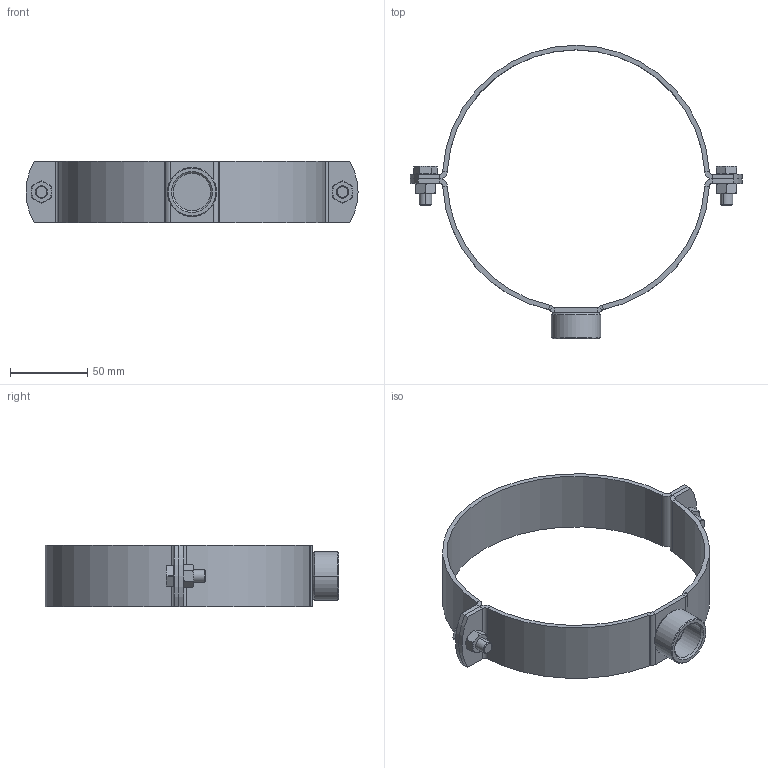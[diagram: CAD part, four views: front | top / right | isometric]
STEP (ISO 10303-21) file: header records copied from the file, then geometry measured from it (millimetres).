
FILE_DESCRIPTION (( 'STEP AP203' ), '1' );
FILE_NAME ('51.840.STEP', '2019-11-21T16:16:55', ( '' ), ( '' ), 'SwSTEP 2.0', 'SolidWorks 2019', '' );
FILE_SCHEMA (( 'CONFIG_CONTROL_DESIGN' ));
Length unit declared in the file: millimetre
Products named in the file (7): 1000003263_E-10254.002-Inox V4A (1.4404); 1000003484; 1000003486; 51.840; 1000003381_11 - Gr. 168-171 - H-17111.611; 1000003377_11 - Gr. 168-171 - H-17110.011; 1000003366_11 - Gr. 168-171 - H-17109.011
Assembly tree (8 placements, depth 3):
  51.840
    1000003381_11 - Gr. 168-171 - H-17111.611
      1000003377_11 - Gr. 168-171 - H-17110.011
      1000003263_E-10254.002-Inox V4A (1.4404)
    1000003366_11 - Gr. 168-171 - H-17109.011
    1000003484  x2
    1000003486  x2
Bounding box: 215 x 190 x 40 mm (x, y, z)
Volume: 82475.5 mm3; surface area: 59131.8 mm2
Topology: 7 solids, 7 shells, 214 faces, 462 edges, 264 vertices
Faces by surface type: plane 90, cylinder 62, cone 62
Entity records: 4974 total; most frequent: CARTESIAN_POINT 861, DIRECTION 757, ORIENTED_EDGE 650, EDGE_CURVE 325, AXIS2_PLACEMENT_3D 304, VERTEX_POINT 184, EDGE_LOOP 165, FACE_OUTER_BOUND 152
